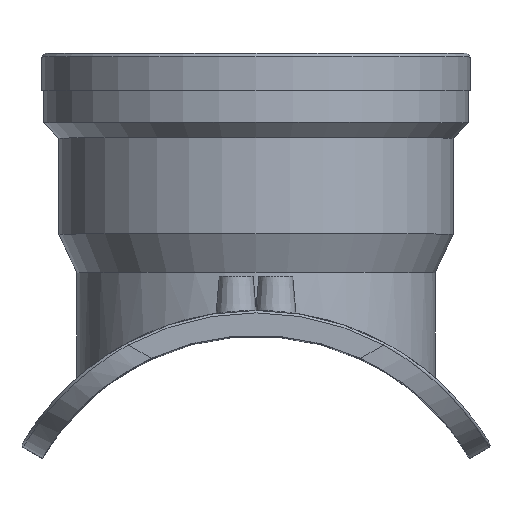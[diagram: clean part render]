
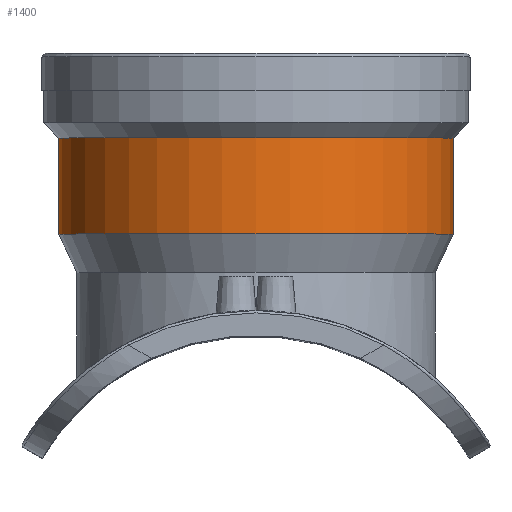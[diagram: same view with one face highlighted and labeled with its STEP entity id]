
A CAD part, top view. The second image highlights one B-rep face of the part: STEP entity #1400.
In plain terms, the highlighted cylindrical face has radius 87.273 mm (diameter 174.546 mm), a full revolution.
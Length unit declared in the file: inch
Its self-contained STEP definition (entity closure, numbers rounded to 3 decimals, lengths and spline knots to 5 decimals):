
#157=FACE_OUTER_BOUND('',#249,.T.);
#249=EDGE_LOOP('',(#1265,#1266,#1267,#1268,#1269,#1270));
#334=CIRCLE('',#1579,3.43594);
#335=CIRCLE('',#1580,3.43594);
#336=CIRCLE('',#1582,3.43594);
#337=CIRCLE('',#1583,3.43594);
#409=LINE('',#3489,#479);
#479=VECTOR('',#1980,3.43594);
#655=VERTEX_POINT('',#3479);
#656=VERTEX_POINT('',#3480);
#657=VERTEX_POINT('',#3485);
#658=VERTEX_POINT('',#3486);
#859=EDGE_CURVE('',#655,#656,#334,.T.);
#860=EDGE_CURVE('',#656,#655,#335,.T.);
#862=EDGE_CURVE('',#657,#658,#336,.T.);
#863=EDGE_CURVE('',#658,#657,#337,.T.);
#864=EDGE_CURVE('',#658,#656,#409,.T.);
#1265=ORIENTED_EDGE('',*,*,#862,.F.);
#1266=ORIENTED_EDGE('',*,*,#863,.F.);
#1267=ORIENTED_EDGE('',*,*,#864,.T.);
#1268=ORIENTED_EDGE('',*,*,#860,.T.);
#1269=ORIENTED_EDGE('',*,*,#859,.T.);
#1270=ORIENTED_EDGE('',*,*,#864,.F.);
#1319=CYLINDRICAL_SURFACE('',#1581,3.43594);
#1400=ADVANCED_FACE('',(#157),#1319,.T.);
#1579=AXIS2_PLACEMENT_3D('',#3481,#1969,#1970);
#1580=AXIS2_PLACEMENT_3D('',#3482,#1971,#1972);
#1581=AXIS2_PLACEMENT_3D('',#3484,#1974,#1975);
#1582=AXIS2_PLACEMENT_3D('',#3487,#1976,#1977);
#1583=AXIS2_PLACEMENT_3D('',#3488,#1978,#1979);
#1969=DIRECTION('center_axis',(0.,1.,0.));
#1970=DIRECTION('ref_axis',(1.,0.,0.));
#1971=DIRECTION('center_axis',(0.,1.,0.));
#1972=DIRECTION('ref_axis',(1.,0.,0.));
#1974=DIRECTION('center_axis',(0.,1.,0.));
#1975=DIRECTION('ref_axis',(0.,0.,1.));
#1976=DIRECTION('center_axis',(0.,1.,0.));
#1977=DIRECTION('ref_axis',(1.,0.,0.));
#1978=DIRECTION('center_axis',(0.,1.,0.));
#1979=DIRECTION('ref_axis',(1.,0.,0.));
#1980=DIRECTION('',(0.,-1.,0.));
#3479=CARTESIAN_POINT('',(0.,6.07512,3.43594));
#3480=CARTESIAN_POINT('',(0.,6.07512,-3.43594));
#3481=CARTESIAN_POINT('Origin',(0.,6.07512,0.));
#3482=CARTESIAN_POINT('Origin',(0.,6.07512,0.));
#3484=CARTESIAN_POINT('Origin',(0.,6.91212,0.));
#3485=CARTESIAN_POINT('',(0.,7.74912,3.43594));
#3486=CARTESIAN_POINT('',(0.,7.74912,-3.43594));
#3487=CARTESIAN_POINT('Origin',(0.,7.74912,0.));
#3488=CARTESIAN_POINT('Origin',(0.,7.74912,0.));
#3489=CARTESIAN_POINT('',(0.,6.91212,-3.43594));
